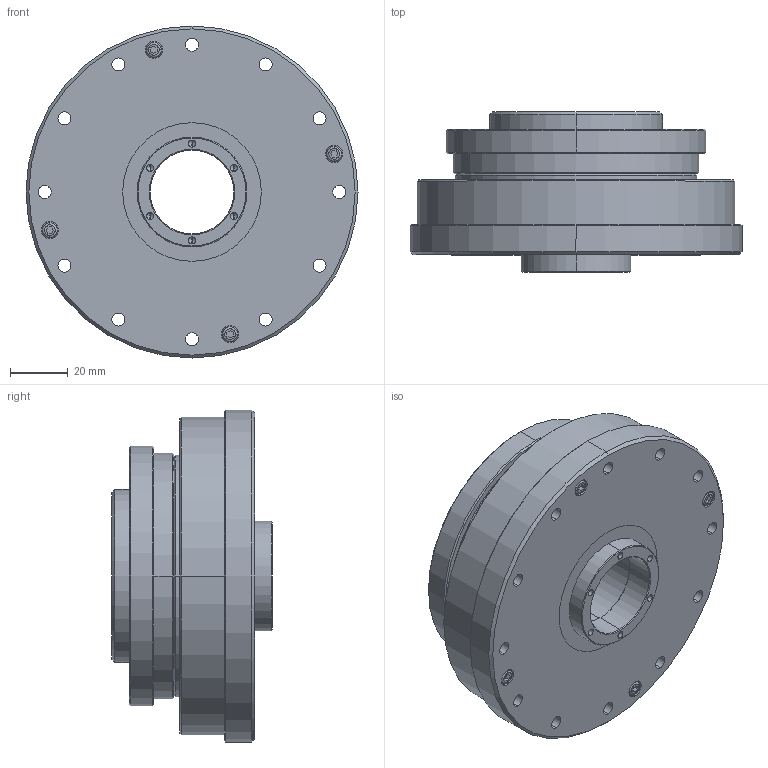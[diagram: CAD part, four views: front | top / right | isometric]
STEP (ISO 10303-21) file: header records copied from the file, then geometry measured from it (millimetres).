
FILE_DESCRIPTION((''),'2;1');
FILE_NAME('LHT-25-U-3_ASM','2019-02-20T',('Administrator'),(''),'PRO/ENGINEER BY PARAMETRIC TECHNOLOGY CORPORATION, 2014200','PRO/ENGINEER BY PARAMETRIC TECHNOLOGY CORPORATION, 2014200','');
FILE_SCHEMA(('AUTOMOTIVE_DESIGN { 1 0 10303 214 1 1 1 1 }'));
Length unit declared in the file: millimetre
Products named in the file (82): MANIFOLD_SOLID_BREP_1040; MANIFOLD_SOLID_BREP_1041; MANIFOLD_SOLID_BREP_1042; MANIFOLD_SOLID_BREP_1043; MANIFOLD_SOLID_BREP_1044; MANIFOLD_SOLID_BREP_1045; MANIFOLD_SOLID_BREP_1046; MANIFOLD_SOLID_BREP_1047; MANIFOLD_SOLID_BREP_1048; MANIFOLD_SOLID_BREP_1049; MANIFOLD_SOLID_BREP_1050; MANIFOLD_SOLID_BREP_1051; MANIFOLD_SOLID_BREP_1052; MANIFOLD_SOLID_BREP_1053; MANIFOLD_SOLID_BREP_1054; MANIFOLD_SOLID_BREP_1055; MANIFOLD_SOLID_BREP_1056; MANIFOLD_SOLID_BREP_1057; MANIFOLD_SOLID_BREP_1058; MANIFOLD_SOLID_BREP_1059; MANIFOLD_SOLID_BREP_1060; MANIFOLD_SOLID_BREP_1061; MANIFOLD_SOLID_BREP_1062; MANIFOLD_SOLID_BREP_1063; MANIFOLD_SOLID_BREP_1064; MANIFOLD_SOLID_BREP_1065; MANIFOLD_SOLID_BREP_1066; MANIFOLD_SOLID_BREP_1067; MANIFOLD_SOLID_BREP_1068; MANIFOLD_SOLID_BREP_1069; MANIFOLD_SOLID_BREP_1070; MANIFOLD_SOLID_BREP_1071; MANIFOLD_SOLID_BREP_1072; MANIFOLD_SOLID_BREP_1073; MANIFOLD_SOLID_BREP_1074; MANIFOLD_SOLID_BREP_1075; MANIFOLD_SOLID_BREP_1076; MANIFOLD_SOLID_BREP_1077; MANIFOLD_SOLID_BREP_1078; MANIFOLD_SOLID_BREP_1079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
Assembly tree (87 placements, depth 3):
  LHT-25-U-3_ASM
    ADMI85A9D2O7_ASM
      MANIFOLD_SOLID_BREP_1040
      MANIFOLD_SOLID_BREP_1041
      MANIFOLD_SOLID_BREP_1042
      MANIFOLD_SOLID_BREP_1043
      MANIFOLD_SOLID_BREP_1044
      MANIFOLD_SOLID_BREP_1045
      MANIFOLD_SOLID_BREP_1046
      MANIFOLD_SOLID_BREP_1047
      MANIFOLD_SOLID_BREP_1048
      MANIFOLD_SOLID_BREP_1049
      MANIFOLD_SOLID_BREP_1050
      MANIFOLD_SOLID_BREP_1051
      MANIFOLD_SOLID_BREP_1052
      MANIFOLD_SOLID_BREP_1053
      MANIFOLD_SOLID_BREP_1054
      MANIFOLD_SOLID_BREP_1055
      MANIFOLD_SOLID_BREP_1056
      MANIFOLD_SOLID_BREP_1057
      MANIFOLD_SOLID_BREP_1058
      MANIFOLD_SOLID_BREP_1059
      MANIFOLD_SOLID_BREP_1060
      MANIFOLD_SOLID_BREP_1061
      MANIFOLD_SOLID_BREP_1062
      MANIFOLD_SOLID_BREP_1063
      MANIFOLD_SOLID_BREP_1064
      MANIFOLD_SOLID_BREP_1065
      MANIFOLD_SOLID_BREP_1066
      MANIFOLD_SOLID_BREP_1067
      MANIFOLD_SOLID_BREP_1068
      MANIFOLD_SOLID_BREP_1069
      MANIFOLD_SOLID_BREP_1070
      MANIFOLD_SOLID_BREP_1071
      MANIFOLD_SOLID_BREP_1072  x4
      MANIFOLD_SOLID_BREP_1073
      MANIFOLD_SOLID_BREP_1074
      MANIFOLD_SOLID_BREP_1075
      MANIFOLD_SOLID_BREP_1076
      MANIFOLD_SOLID_BREP_1077
      MANIFOLD_SOLID_BREP_1078
      MANIFOLD_SOLID_BREP_1079
      MANIFOLD_SOLID_BREP_1080
      MANIFOLD_SOLID_BREP_1081
      MANIFOLD_SOLID_BREP_1082
      MANIFOLD_SOLID_BREP_1083
      MANIFOLD_SOLID_BREP_1084
      MANIFOLD_SOLID_BREP_1085
      MANIFOLD_SOLID_BREP_1086
      MANIFOLD_SOLID_BREP_1087
      MANIFOLD_SOLID_BREP_1088
      MANIFOLD_SOLID_BREP_1089
      MANIFOLD_SOLID_BREP_1090
      MANIFOLD_SOLID_BREP_1091
      MANIFOLD_SOLID_BREP_1092
      MANIFOLD_SOLID_BREP_1093
      MANIFOLD_SOLID_BREP_1094  x4
      MANIFOLD_SOLID_BREP_1095
      MANIFOLD_SOLID_BREP_1096
      MANIFOLD_SOLID_BREP_1097
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Bounding box: 115 x 55.5 x 115 mm (x, y, z)
Volume: 312084 mm3; surface area: 183167.2 mm2
Topology: 86 solids, 86 shells, 1181 faces, 3153 edges, 2024 vertices
Faces by surface type: cylinder 549, plane 275, torus 148, cone 127, sphere 70, revolution 12
Entity records: 48562 total; most frequent: DIRECTION 7212, CARTESIAN_POINT 6670, ORIENTED_EDGE 5414, AXIS2_PLACEMENT_3D 3205, PRESENTATION_STYLE_ASSIGNMENT 2787, STYLED_ITEM 2787, CURVE_STYLE 2707, EDGE_CURVE 2707
